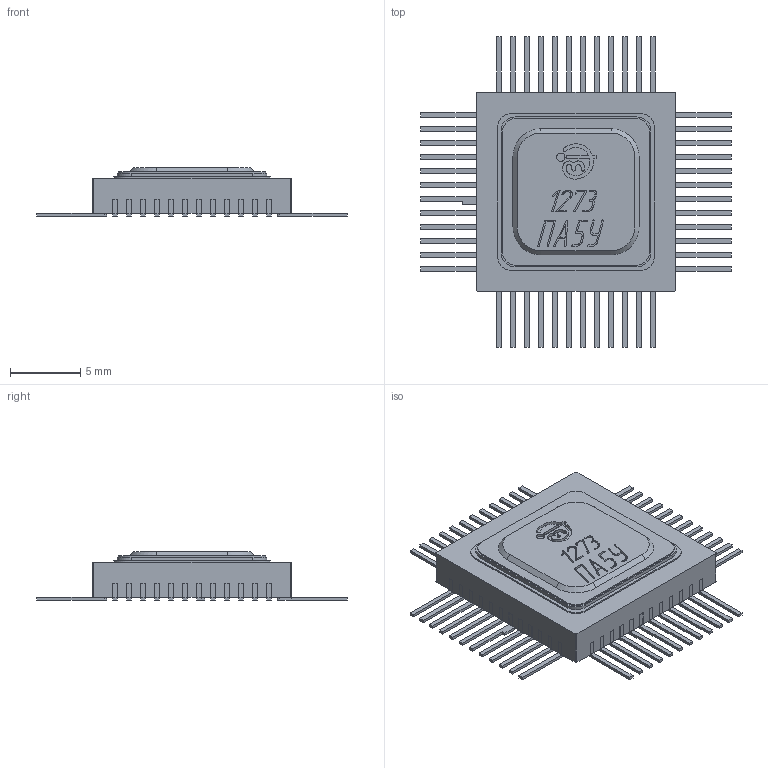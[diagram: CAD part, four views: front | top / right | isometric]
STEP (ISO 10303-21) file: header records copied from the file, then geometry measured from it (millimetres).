
FILE_DESCRIPTION(('STEP AP214'), '1');
FILE_NAME('1273ﾏﾀ5ﾓ', '', ('UNSPECIFIED'), ('UNSPECIFIED'), 'ASCON STEP Converter 1.6', 'ASCON Math Kernel', '');
FILE_SCHEMA(('AUTOMOTIVE_DESIGN { 1 0 10303 214 3 1 1}'));
Length unit declared in the file: millimetre
Bounding box: 22.2 x 22.2 x 3.46 mm (x, y, z)
Volume: 592.2 mm3; surface area: 1350 mm2
Topology: 160 solids, 160 shells, 1480 faces, 3441 edges, 2294 vertices
Faces by surface type: plane 1251, cylinder 215, extrusion 10, cone 4
Full cylindrical faces by diameter (mm): 0.6 x1
Entity records: 54831 total; most frequent: CARTESIAN_POINT 7635, ORIENTED_EDGE 6880, DIRECTION 6810, EDGE_CURVE 3440, VECTOR 2992, LINE 2982, VERTEX_POINT 2294, AXIS2_PLACEMENT_3D 1909
